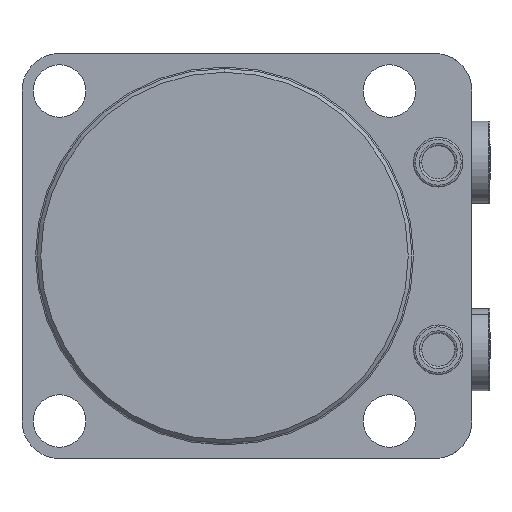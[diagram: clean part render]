
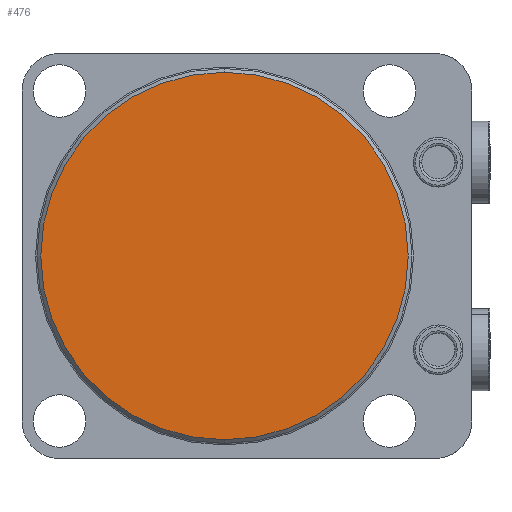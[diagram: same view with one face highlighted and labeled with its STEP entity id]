
A CAD part, front view. The second image highlights one B-rep face of the part: STEP entity #476.
In plain terms, the highlighted planar face has unit normal (0, -1, 0) as drawn and (0, 1, 0) by its records, which use the part's own axes.
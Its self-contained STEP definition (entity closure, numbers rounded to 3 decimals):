
#211=PLANE('',#3264);
#476=ADVANCED_FACE('',(#685),#211,.T.);
#685=FACE_OUTER_BOUND('',#871,.F.);
#871=EDGE_LOOP('',(#1787,#1788));
#1787=ORIENTED_EDGE('',*,*,#2699,.T.);
#1788=ORIENTED_EDGE('',*,*,#2638,.T.);
#2303=VERTEX_POINT('',#4956);
#2304=VERTEX_POINT('',#4957);
#2638=EDGE_CURVE('',#2303,#2304,#2938,.T.);
#2699=EDGE_CURVE('',#2304,#2303,#2960,.T.);
#2938=CIRCLE('',#3228,49.);
#2960=CIRCLE('',#3263,49.);
#3228=AXIS2_PLACEMENT_3D('',#4955,#3922,#3923);
#3263=AXIS2_PLACEMENT_3D('',#5085,#4026,#4027);
#3264=AXIS2_PLACEMENT_3D('',#5086,#4028,#4029);
#3922=DIRECTION('',(0.,-1.,0.));
#3923=DIRECTION('',(0.,0.,1.));
#4026=DIRECTION('',(0.,-1.,0.));
#4027=DIRECTION('',(0.,0.,1.));
#4028=DIRECTION('',(0.,1.,0.));
#4029=DIRECTION('',(0.,0.,1.));
#4955=CARTESIAN_POINT('',(0.,0.,0.));
#4956=CARTESIAN_POINT('',(0.,0.,-49.));
#4957=CARTESIAN_POINT('',(0.,0.,49.));
#5085=CARTESIAN_POINT('',(0.,0.,0.));
#5086=CARTESIAN_POINT('',(-54.,0.,54.));
